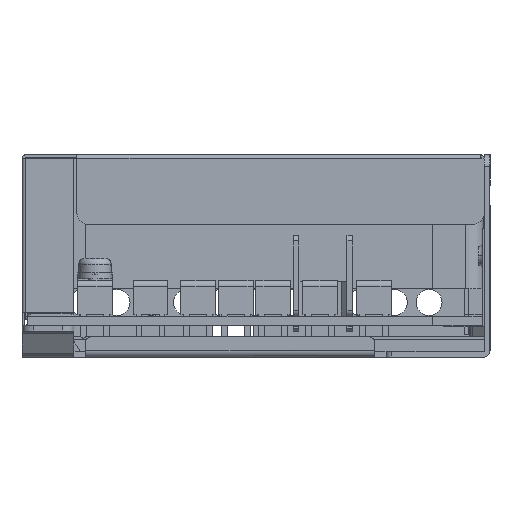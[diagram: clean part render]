
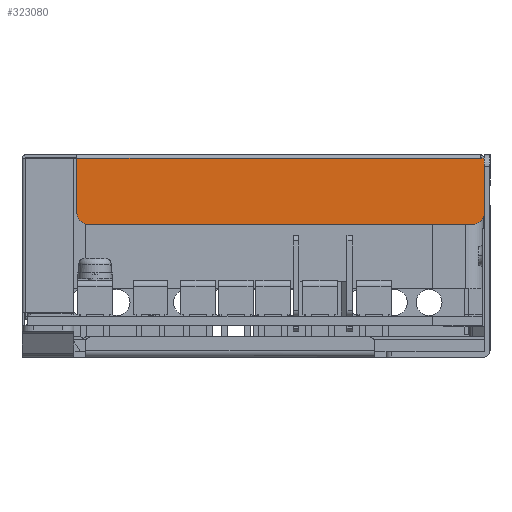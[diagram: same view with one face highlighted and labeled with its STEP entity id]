
A CAD part, left-side view. The second image highlights one B-rep face of the part: STEP entity #323080.
In plain terms, the highlighted planar face has unit normal (-1, 0, 0).
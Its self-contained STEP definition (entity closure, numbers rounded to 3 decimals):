
#195680=CARTESIAN_POINT('',(-9.335,81.156,
-0.6));
#195690=VERTEX_POINT('',#195680);
#195720=CARTESIAN_POINT('',(-9.335,81.156,
0.));
#195730=DIRECTION('',(0.,0.,-1.));
#195740=VECTOR('',#195730,1.);
#195750=LINE('',#195720,#195740);
#195760=CARTESIAN_POINT('',(-9.335,81.156,-0.6));
#195770=VERTEX_POINT('',#195760);
#195780=EDGE_CURVE('',#195770,#195690,#195750,.T.);
#205670=CARTESIAN_POINT('',(-9.335,80.555,
-0.6));
#205680=VERTEX_POINT('',#205670);
#205710=CARTESIAN_POINT('',(-9.335,0.,-0.597));
#205720=DIRECTION('',(0.,1.,0.));
#205730=VECTOR('',#205720,1.);
#205740=LINE('',#205710,#205730);
#205750=EDGE_CURVE('',#205680,#195690,#205740,.T.);
#205860=CARTESIAN_POINT('',(-9.335,80.555,0.));
#205870=DIRECTION('',(0.,0.,-1.));
#205880=VECTOR('',#205870,1.);
#205890=LINE('',#205860,#205880);
#205900=CARTESIAN_POINT('',(-9.335,80.555,
-10.));
#205910=VERTEX_POINT('',#205900);
#205920=EDGE_CURVE('',#205680,#205910,#205890,.T.);
#206300=CARTESIAN_POINT('',(-9.335,82.555,
-12.));
#206310=VERTEX_POINT('',#206300);
#206340=CARTESIAN_POINT('',(-9.335,82.555,
-10.));
#206350=DIRECTION('',(-1.,0.,0.));
#206360=DIRECTION('',(0.,1.,0.));
#206370=AXIS2_PLACEMENT_3D('',#206340,#206350,#206360);
#206380=CIRCLE('',#206370,2.);
#206390=EDGE_CURVE('',#206310,#205910,#206380,.T.);
#207210=CARTESIAN_POINT('',(-9.335,0.,-0.6));
#207220=DIRECTION('',(0.,-1.,0.));
#207230=VECTOR('',#207220,1.);
#207240=LINE('',#207210,#207230);
#207250=CARTESIAN_POINT('',(-9.335,151.055,-0.6));
#207260=VERTEX_POINT('',#207250);
#207270=EDGE_CURVE('',#207260,#195770,#207240,.T.);
#321040=CARTESIAN_POINT('',(-9.335,151.055,
-0.003));
#321050=DIRECTION('',(0.,0.,-1.));
#321060=VECTOR('',#321050,1.);
#321070=LINE('',#321040,#321060);
#321080=CARTESIAN_POINT('',(-9.335,151.055,
-10.003));
#321090=VERTEX_POINT('',#321080);
#321100=EDGE_CURVE('',#207260,#321090,#321070,.T.);
#321530=CARTESIAN_POINT('',(-9.335,149.055,
-10.002));
#321540=DIRECTION('',(-1.,0.,0.));
#321550=DIRECTION('',(0.,0.,1.));
#321560=AXIS2_PLACEMENT_3D('',#321530,#321540,#321550);
#321570=CIRCLE('',#321560,2.);
#321580=CARTESIAN_POINT('',(-9.335,149.055,
-12.002));
#321590=VERTEX_POINT('',#321580);
#321600=EDGE_CURVE('',#321090,#321590,#321570,.T.);
#321780=CARTESIAN_POINT('',(-9.335,83.056,
-12.));
#321790=DIRECTION('',(0.,1.,0.));
#321800=VECTOR('',#321790,1.);
#321810=LINE('',#321780,#321800);
#321820=EDGE_CURVE('',#206310,#321590,#321810,.T.);
#322930=CARTESIAN_POINT('',(-9.335,81.056,0.));
#322940=DIRECTION('',(1.,0.,0.));
#322950=DIRECTION('',(0.,-1.,0.));
#322960=AXIS2_PLACEMENT_3D('',#322930,#322940,#322950);
#322970=PLANE('',#322960);
#322980=ORIENTED_EDGE('',*,*,#207270,.F.);
#322990=ORIENTED_EDGE('',*,*,#195780,.F.);
#323000=ORIENTED_EDGE('',*,*,#205750,.T.);
#323010=ORIENTED_EDGE('',*,*,#205920,.F.);
#323020=ORIENTED_EDGE('',*,*,#206390,.T.);
#323030=ORIENTED_EDGE('',*,*,#321820,.F.);
#323040=ORIENTED_EDGE('',*,*,#321600,.T.);
#323050=ORIENTED_EDGE('',*,*,#321100,.T.);
#323060=EDGE_LOOP('',(#323050,#323040,#323030,#323020,#323010,#323000,
#322990,#322980));
#323070=FACE_OUTER_BOUND('',#323060,.T.);
#323080=ADVANCED_FACE('',(#323070),#322970,.F.);
